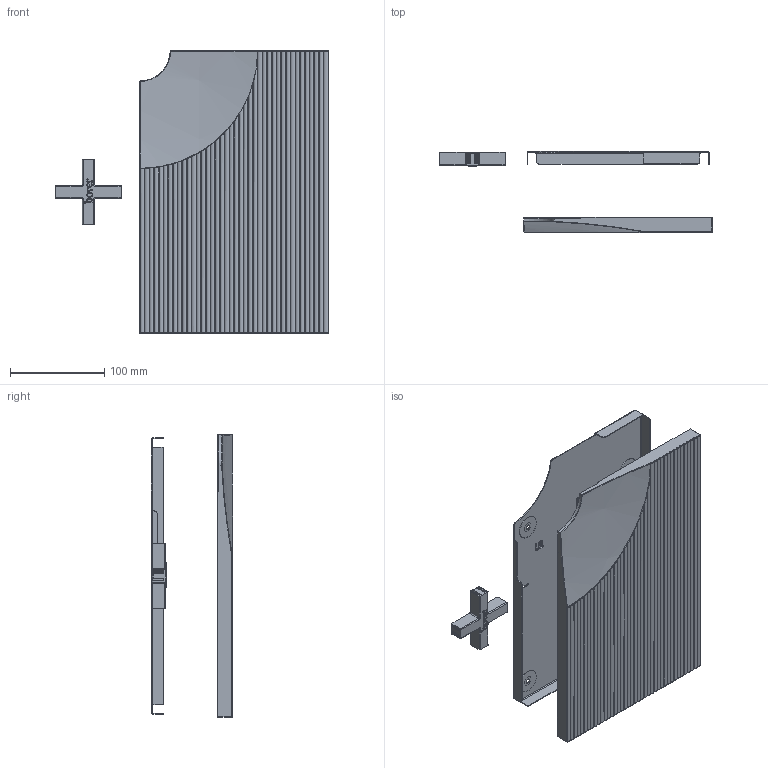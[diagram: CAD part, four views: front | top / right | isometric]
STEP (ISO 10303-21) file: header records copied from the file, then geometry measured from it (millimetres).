
FILE_DESCRIPTION (( 'STEP AP203' ), '1' );
FILE_NAME ('AC126003XXXU.STEP', '2025-01-28T09:27:04', ( '' ), ( '' ), 'SwSTEP 2.0', 'SolidWorks 2023', '' );
FILE_SCHEMA (( 'CONFIG_CONTROL_DESIGN' ));
Length unit declared in the file: millimetre
Products named in the file (8): AC126003XXXU; SUB126-022-CN; 126-042; SUB126-015-CNU; 126-032; 126-025; 126-026; 998-006
Assembly tree (14 placements, depth 3):
  AC126003XXXU
    SUB126-015-CNU
      126-042
      126-025  x4
      126-026
    SUB126-022-CN
      126-032
      998-006  x5
Bounding box: 289.38 x 86.24 x 300 mm (x, y, z)
Volume: 228232.9 mm3; surface area: 319081.1 mm2
Topology: 12 solids, 12 shells, 1001 faces, 2570 edges, 1638 vertices
Faces by surface type: cylinder 454, plane 256, torus 160, bspline 112, cone 10, sphere 9
Entity records: 39033 total; most frequent: CARTESIAN_POINT 16333, ORIENTED_EDGE 4844, DIRECTION 4282, EDGE_CURVE 2422, AXIS2_PLACEMENT_3D 1607, VERTEX_POINT 1542, VECTOR 1068, LINE 1068
